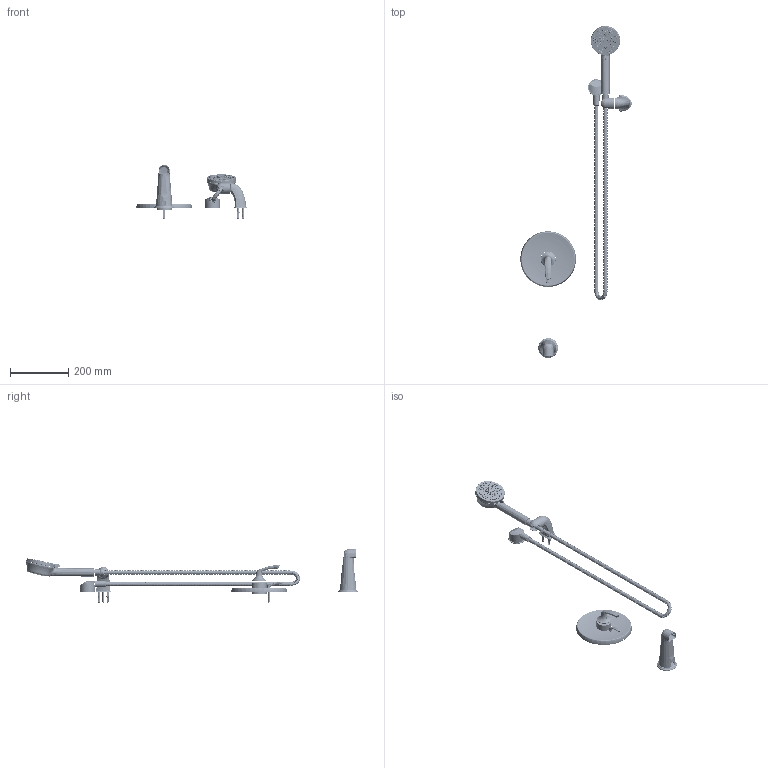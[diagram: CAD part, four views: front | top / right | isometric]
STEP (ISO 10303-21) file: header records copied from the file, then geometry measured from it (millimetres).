
FILE_DESCRIPTION (( 'STEP AP203' ), '1' );
FILE_NAME ('S5594.STEP', '2025-01-16T21:58:42', ( '' ), ( '' ), 'SwSTEP 2.0', 'SolidWorks 2023', '' );
FILE_SCHEMA (( 'CONFIG_CONTROL_DESIGN' ));
Products named in the file (1): S5594
Bounding box: 381.71 x 1136.21 x 185.9 mm (x, y, z)
Surface area: 309923.4 mm2 (no closed solid volume)
Topology: 0 solids, 172 shells, 1004 faces, 4180 edges, 3208 vertices
Faces by surface type: bspline 385, plane 209, cylinder 185, cone 143, torus 62, sphere 20
Entity records: 222757 total; most frequent: CARTESIAN_POINT 194898, ORIENTED_EDGE 5723, EDGE_CURVE 4173, DIRECTION 3815, VERTEX_POINT 3208, B_SPLINE_CURVE_WITH_KNOTS 2263, AXIS2_PLACEMENT_3D 1450, EDGE_LOOP 1286
